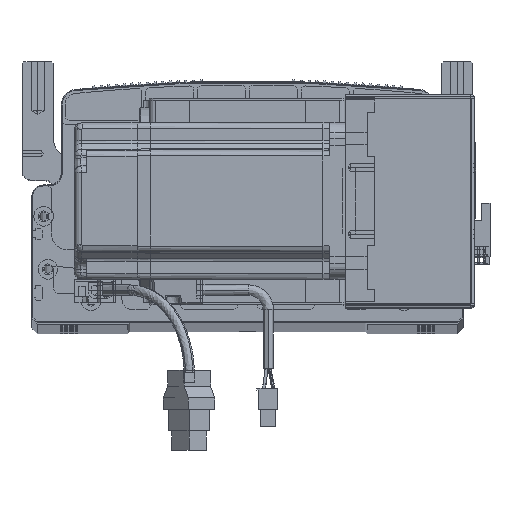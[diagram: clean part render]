
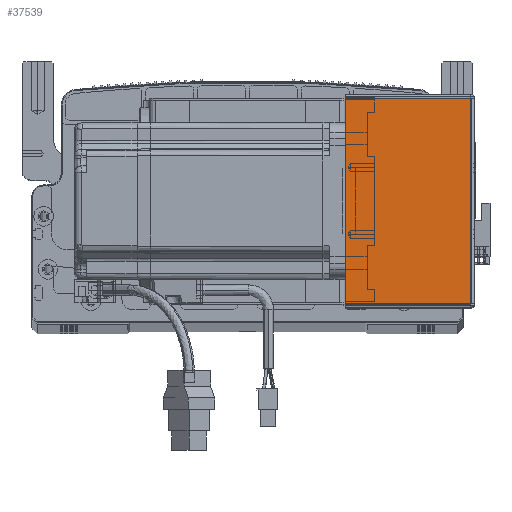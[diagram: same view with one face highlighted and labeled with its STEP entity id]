
A CAD part, top view. The second image highlights one B-rep face of the part: STEP entity #37539.
In plain terms, the highlighted planar face has unit normal (0, 0, 1) as drawn and (0, 0, -1) by its records, which use the part's own axes.
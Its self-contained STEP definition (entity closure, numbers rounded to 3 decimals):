
#4809 = CARTESIAN_POINT ( 'NONE',  ( 0., 105.293, -205.5 ) ) ;
#6320 = CARTESIAN_POINT ( 'NONE',  ( 0.737, 105.293, -205.5 ) ) ;
#8970 = LINE ( 'NONE', #4809, #52524 ) ;
#9333 = VERTEX_POINT ( 'NONE', #74931 ) ;
#11432 = CARTESIAN_POINT ( 'NONE',  ( 64.5, 0., -205.5 ) ) ;
#15544 = ORIENTED_EDGE ( 'NONE', *, *, #16435, .T. ) ;
#16435 = EDGE_CURVE ( 'NONE', #9333, #64164, #62753, .T. ) ;
#19361 = DIRECTION ( 'NONE',  ( 0., -1., 0. ) ) ;
#19629 = DIRECTION ( 'NONE',  ( 1., 0., 0. ) ) ;
#33952 = EDGE_CURVE ( 'NONE', #80395, #64164, #72076, .T. ) ;
#37240 = EDGE_LOOP ( 'NONE', ( #97020, #73477, #15544, #73105 ) ) ;
#37438 = EDGE_CURVE ( 'NONE', #55246, #80395, #46856, .T. ) ;
#37539 = ADVANCED_FACE ( 'NONE', ( #95265 ), #80187, .F. ) ;
#38753 = CARTESIAN_POINT ( 'NONE',  ( 0.737, 0., -205.5 ) ) ;
#41725 = DIRECTION ( 'NONE',  ( 1., 0., 0. ) ) ;
#46856 = LINE ( 'NONE', #38753, #79868 ) ;
#46960 = DIRECTION ( 'NONE',  ( 0., -1., 0. ) ) ;
#49523 = DIRECTION ( 'NONE',  ( 1., 0., 0. ) ) ;
#49853 = CARTESIAN_POINT ( 'NONE',  ( 0., 0., -205.5 ) ) ;
#51555 = CARTESIAN_POINT ( 'NONE',  ( 0.737, 0.707, -205.5 ) ) ;
#52524 = VECTOR ( 'NONE', #41725, 1000. ) ;
#55246 = VERTEX_POINT ( 'NONE', #6320 ) ;
#62753 = LINE ( 'NONE', #11432, #63969 ) ;
#63969 = VECTOR ( 'NONE', #19361, 1000. ) ;
#64164 = VERTEX_POINT ( 'NONE', #91093 ) ;
#72076 = LINE ( 'NONE', #77645, #77955 ) ;
#72614 = DIRECTION ( 'NONE',  ( 0., 0., 1. ) ) ;
#73105 = ORIENTED_EDGE ( 'NONE', *, *, #33952, .F. ) ;
#73477 = ORIENTED_EDGE ( 'NONE', *, *, #78575, .T. ) ;
#74931 = CARTESIAN_POINT ( 'NONE',  ( 64.5, 105.293, -205.5 ) ) ;
#77645 = CARTESIAN_POINT ( 'NONE',  ( 0., 0.707, -205.5 ) ) ;
#77955 = VECTOR ( 'NONE', #19629, 1000. ) ;
#78575 = EDGE_CURVE ( 'NONE', #55246, #9333, #8970, .T. ) ;
#79868 = VECTOR ( 'NONE', #46960, 1000. ) ;
#80187 = PLANE ( 'NONE',  #85331 ) ;
#80395 = VERTEX_POINT ( 'NONE', #51555 ) ;
#85331 = AXIS2_PLACEMENT_3D ( 'NONE', #49853, #72614, #49523 ) ;
#91093 = CARTESIAN_POINT ( 'NONE',  ( 64.5, 0.707, -205.5 ) ) ;
#95265 = FACE_OUTER_BOUND ( 'NONE', #37240, .T. ) ;
#97020 = ORIENTED_EDGE ( 'NONE', *, *, #37438, .F. ) ;
